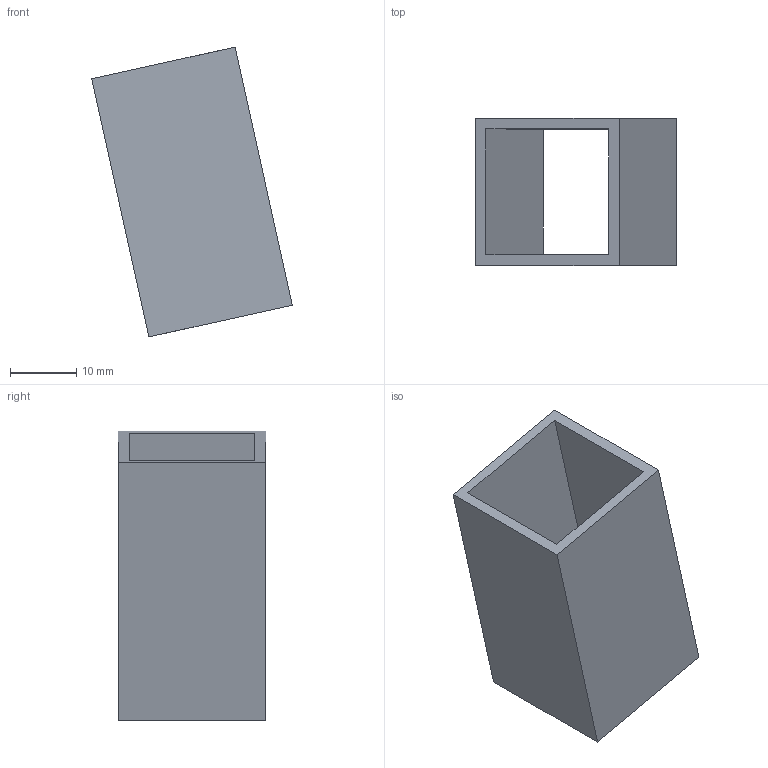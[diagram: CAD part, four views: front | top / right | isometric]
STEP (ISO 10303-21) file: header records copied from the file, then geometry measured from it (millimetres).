
FILE_DESCRIPTION(('Open CASCADE Model'),'2;1');
FILE_NAME('Open CASCADE Shape Model','2026-10-17T22:15:36',('Author'),( 'Open CASCADE'),'Open CASCADE STEP processor 7.9','Open CASCADE 7.9' ,'Unknown');
FILE_SCHEMA(('AUTOMOTIVE_DESIGN { 1 0 10303 214 1 1 1 1 }'));
Length unit declared in the file: millimetre
Products named in the file (1): Open CASCADE STEP translator 7.9 5
Bounding box: 30.38 x 22.25 x 43.87 mm (x, y, z)
Volume: 5286.4 mm3; surface area: 6872.3 mm2
Topology: 1 solids, 1 shells, 10 faces, 24 edges, 16 vertices
Faces by surface type: plane 10
Entity records: 598 total; most frequent: CARTESIAN_POINT 115, DIRECTION 78, LINE 56, VECTOR 56, ORIENTED_EDGE 48, PCURVE 48, DEFINITIONAL_REPRESENTATION 48, EDGE_CURVE 24
